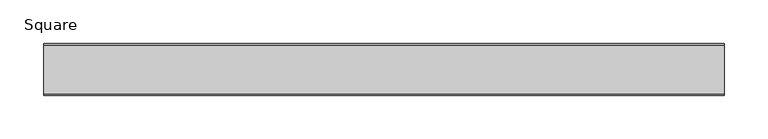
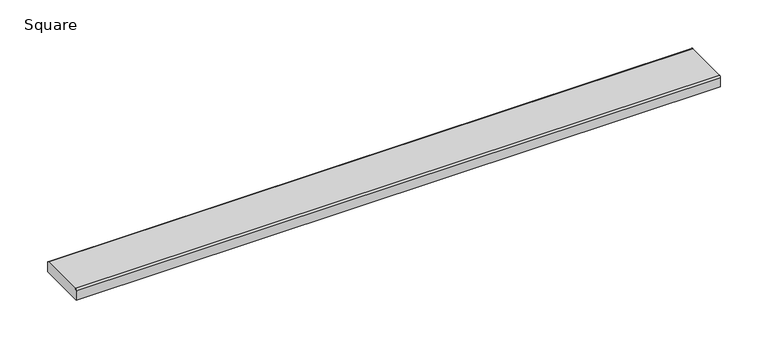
"""IFC4 building model written with IfcOpenShell, lengths in millimetres: sanitary terminal geometry, ZZZ_do not use_PF_UN_grating ShowerDrain C (GE)_ACO : Square."""

from ifc_helpers import new_model, si_unit, point, frame, frame_2d, origin, place, context, project, spatial, polyline, circle_curve, trimmed, segment, composite_curve, outline, extrude, source, transform, mapped, element, save


def square_67668155(model_context):
    return source(origin(), model_context, "Body", "SweptSolid", [
        extrude(outline(composite_curve([segment(polyline([(30.0, -14.0), (-30.0, -14.0), (-30.0, -1.977849)]), True, "CONTINUOUS"), segment(trimmed(circle_curve(frame_2d((-28.022151, -1.977849)), 1.977849), [point((-30.0, -1.977849))], [point((-28.022151, 0.0))], False, "CARTESIAN"), True, "CONTINUOUS"), segment(polyline([(-28.022151, 0.0), (28.022151, 0.0)]), True, "CONTINUOUS"), segment(trimmed(circle_curve(frame_2d((28.022151, -1.977849)), 1.977849), [point((28.022151, 0.0))], [point((30.0, -1.977849))], False, "CARTESIAN"), True, "CONTINUOUS"), segment(polyline([(30.0, -1.977849), (30.0, -14.0)]), True, "CONTINUOUS")], self_intersect=False)), frame((-390.5, 0.0, 0.0), z_axis=(1.0, 0.0, 0.0), x_axis=(0.0, 1.0, 0.0)), (0.0, 0.0, 1.0), 781.0),
    ])


if __name__ == "__main__":
    model = new_model("IFC4")
    model_context = context("Model", 3, world=origin())
    ifc_project = project(units=[si_unit("LENGTHUNIT", "METRE", prefix="MILLI")], contexts=[model_context])
    site = spatial("IfcSite", under=ifc_project)
    building = spatial("IfcBuilding", under=site)
    placement = place(None, origin())
    square_shape = square_67668155(model_context)
    element("IfcSanitaryTerminal", 1, ObjectType="ZZZ_do not use_PF_UN_grating ShowerDrain C (GE)_ACO : Square", at=placement, inside=building, context=model_context, shape_type="MappedRepresentation", body=[
        mapped(square_shape, transform((0.0, 0.0, 0.0), x_axis=(1.0, 0.0, 0.0), y_axis=(0.0, 1.0, 0.0), z_axis=(0.0, 0.0, 1.0))),
    ])
    save(model, "model.ifc")
